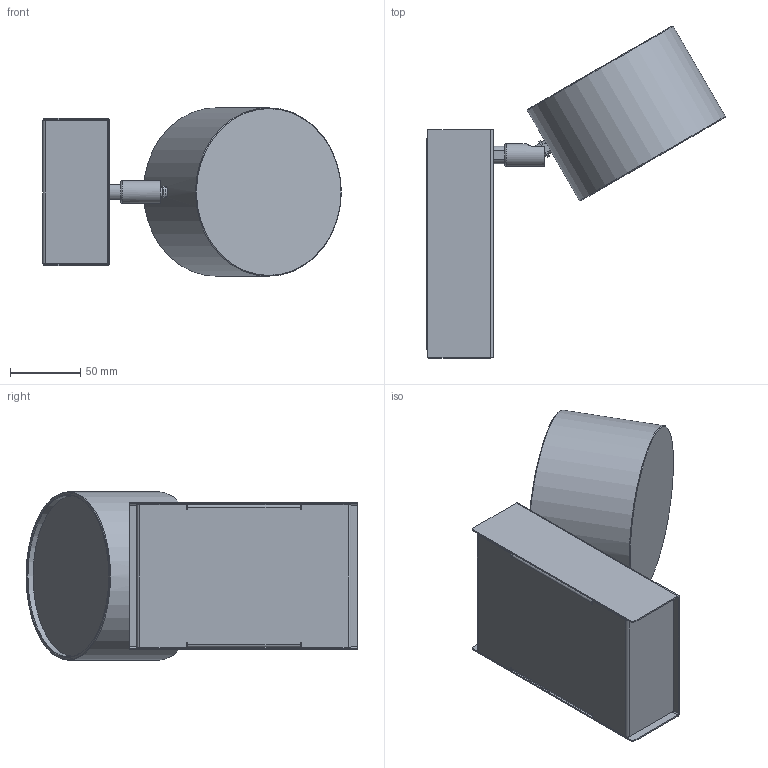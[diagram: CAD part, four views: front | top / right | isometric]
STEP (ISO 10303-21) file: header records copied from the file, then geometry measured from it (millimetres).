
FILE_DESCRIPTION(/* description */ (''),/* implementation_level */ '2;1');
FILE_NAME(/* name */ 'X:\PUBBLICA\X ALBERTO ZANARDI\FILE 3D X SITO\SPOT\1A050 - SPOT.stp',/* time_stamp */ '2020-02-19T09:40:43+01:00',/* author */ ('AC'),/* organization */ (''),/* preprocessor_version */ 'ST-DEVELOPER v18',/* originating_system */ 'Autodesk Inventor 2020',/* authorisation */ '');
FILE_SCHEMA (('AUTOMOTIVE_DESIGN { 1 0 10303 214 3 1 1 }'));
Length unit declared in the file: millimetre
Products named in the file (1): Parte1
Bounding box: 212.08 x 235.68 x 119.6 mm (x, y, z)
Volume: 498559.3 mm3; surface area: 235016.5 mm2
Topology: 3 solids, 4 shells, 166 faces, 397 edges, 249 vertices
Faces by surface type: plane 103, cylinder 54, cone 4, sphere 4, torus 1
Full cylindrical faces by diameter (mm): 8.917 x1, 16 x1, 106 x1, 109 x1, 111.5 x1, 113.5 x1, 114 x1, 115 x1, 117 x1, 119.6 x1
Entity records: 5064 total; most frequent: DIRECTION 866, CARTESIAN_POINT 856, ORIENTED_EDGE 792, EDGE_CURVE 396, AXIS2_PLACEMENT_3D 307, LINE 252, VECTOR 252, VERTEX_POINT 249
